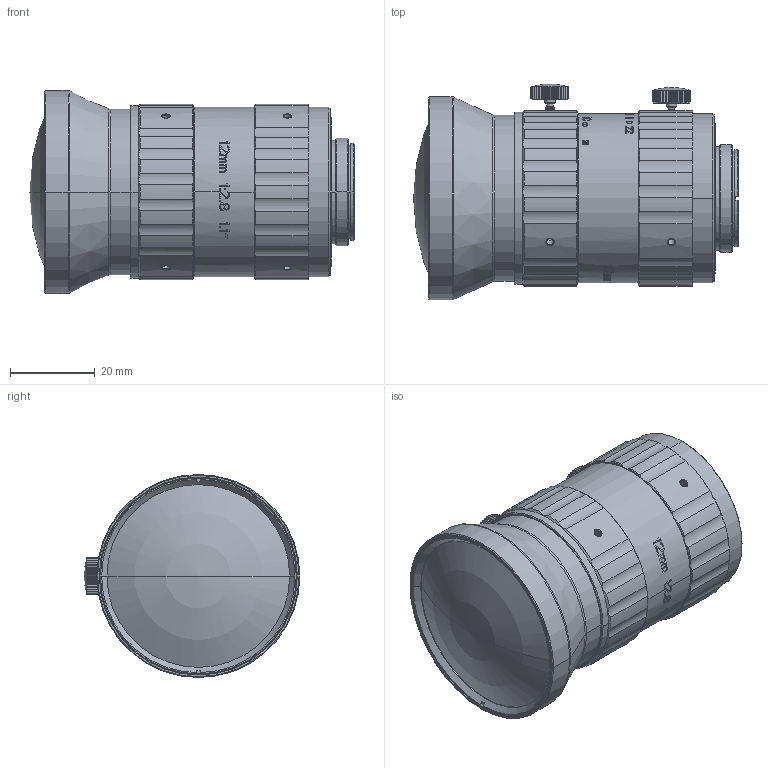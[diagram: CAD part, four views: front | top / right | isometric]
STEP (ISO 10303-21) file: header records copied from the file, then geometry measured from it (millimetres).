
FILE_DESCRIPTION((''),'2;1');
FILE_NAME('200_ASM','2025-10-13T17:28:51',('user'),(''),'CREO PARAMETRIC BY PTC INC, 2022073','CREO PARAMETRIC BY PTC INC, 2022073','');
FILE_SCHEMA(('CONFIG_CONTROL_DESIGN'));
Length unit declared in the file: millimetre
Products named in the file (100): 505_AF0; 502_AF0; 308_AF0; 514_AF0; 307_AF0; 513_AF0; 202_AF0_ASM; 503_AF0; MA083-02-02_AF0; MA117-02-20________AF0; MA083-02-03_AF0; MA117-02-20________AF1; MA083-01-01_AF0_ASM; MA117-02-20________AF2; MA083-02-03_AF1; MA117-02-20________AF3; MA083-01-01_AF1_ASM; MA117-02-20________AF4; MA083-02-03_AF2; MA117-02-20________AF5; MA083-01-01_AF2_ASM; MA117-02-20________AF6; MA083-02-03_AF3; MA117-02-20________AF7; MA083-01-01_AF3_ASM; MA117-02-20________AF8; MA083-02-03_AF4; MA117-02-20________AF9; MA083-01-01_AF4_ASM; MA117-02-20________AF10; MA083-02-03_AF5; MA117-02-20________AF11; MA083-01-01_AF5_ASM; MA083-02-04_AF0; MA117-02-20________AF12; MA083-02-03_AF6; MA117-02-20________AF13; MA083-01-01_AF6_ASM; MA083-02-01_AF0; MA117-02-20________AF14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
Assembly tree (99 placements, depth 6):
  200_ASM
    505_AF0
    202_AF0_ASM
      502_AF0
      308_AF0
      514_AF0
      307_AF0
      513_AF0
    205_AF0_ASM
      203_AF0_ASM
        503_AF0
        ASM0001_AF0_ASM
          MA083-02-02_AF0
          MA083-01-01_AF0_ASM
            MA117-02-20________AF0
            MA083-02-03_AF0
            MA117-02-20________AF1
          MA083-01-01_AF1_ASM
            MA117-02-20________AF2
            MA083-02-03_AF1
            MA117-02-20________AF3
          MA083-01-01_AF2_ASM
            MA117-02-20________AF4
            MA083-02-03_AF2
            MA117-02-20________AF5
          MA083-01-01_AF3_ASM
            MA117-02-20________AF6
            MA083-02-03_AF3
            MA117-02-20________AF7
          MA083-01-01_AF4_ASM
            MA117-02-20________AF8
            MA083-02-03_AF4
            MA117-02-20________AF9
          MA083-01-01_AF5_ASM
            MA117-02-20________AF10
            MA083-02-03_AF5
            MA117-02-20________AF11
          MA083-02-04_AF0
          MA083-01-01_AF6_ASM
            MA117-02-20________AF12
            MA083-02-03_AF6
            MA117-02-20________AF13
          MA083-02-01_AF0
          MA083-01-01_AF7_ASM
            MA117-02-20________AF14
            MA083-02-03_AF7
            MA117-02-20________AF15
        309_AF0
        515_AF0
        JD20302011_AF0
        JD20302011_AF1
      519_AF0
      204_AF0_ASM
        504_AF0
        602_AF0_ASM
          310_AF0
          311_AF0
        312_AF0
        516_AF0
        313_AF0
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Bounding box: 76.75 x 50.99 x 48 mm (x, y, z)
Volume: 19870.1 mm3; surface area: 36985.1 mm2
Topology: 19 solids, 55 shells, 1979 faces, 5289 edges, 3425 vertices
Faces by surface type: bspline 706, plane 553, cylinder 464, cone 232, torus 16, sphere 8
Entity records: 87721 total; most frequent: CARTESIAN_POINT 40756, ORIENTED_EDGE 10370, DIRECTION 7888, EDGE_CURVE 5257, VERTEX_POINT 3425, AXIS2_PLACEMENT_3D 2928, EDGE_LOOP 2128, VECTOR 2032
